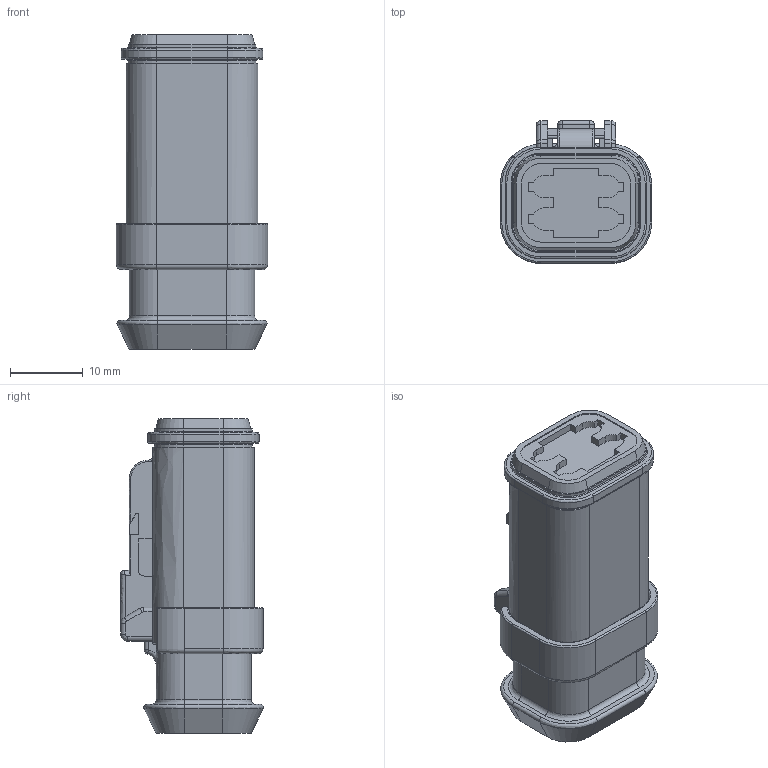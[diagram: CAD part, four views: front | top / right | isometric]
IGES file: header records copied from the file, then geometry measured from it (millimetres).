
Start section:  PTC IGES file: c-dt06-4s-ep11-a-3d.igs
Global section: file name: c-dt06-4s-ep11-a-3d.igs; native system: Creo Parametric by Parametric Technology Corporation; preprocessor: 2014090; author: workeradm; organization: Unknown; units: millimetre
Bounding box: 20.83 x 19.68 x 43.38 mm (x, y, z)
Surface area: 4953.7 mm2 (no closed solid volume)
Topology: 0 solids, 0 shells, 536 faces, 2742 edges, 2742 vertices
Faces by surface type: bspline 275, revolution 261
